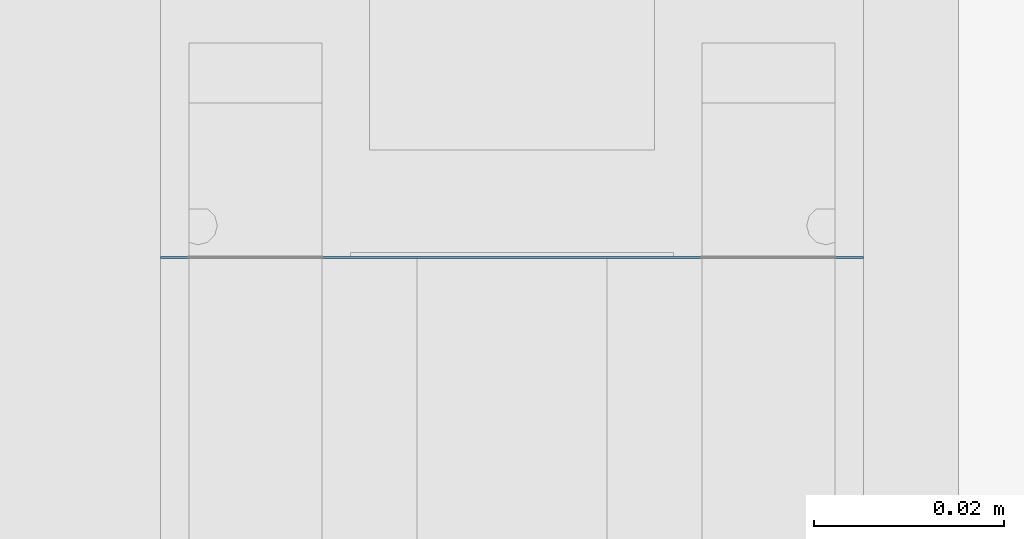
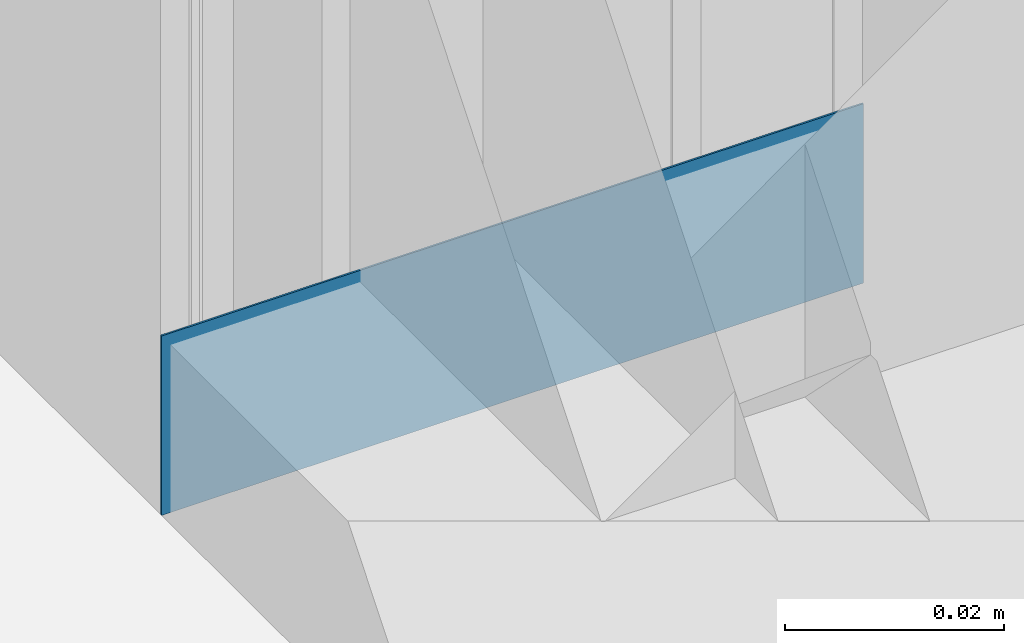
# One storey, part 7 of 65: 1 member, 1 element without a shape of its own.
"""IFC2X3 building model written with IfcOpenShell, lengths in millimetres."""

from ifc_helpers import new_model, entity, si_unit, converted_unit, derived_unit, money_unit, direction, frame, origin_with_axes, place, context, subcontext, project, spatial, polyline, outline, extrude, material, type_object, element, aggregate, save


model = new_model("IFC2X3")

# Units and contexts
model_context = context("Model", 3, precision=0.01, world=origin_with_axes(), true_north=direction((0.0, 1.0)))
body_context = subcontext(model_context, "Body", "Model", "MODEL_VIEW")
ifc_project = project(units=[si_unit("LENGTHUNIT", "METRE", prefix="MILLI"), si_unit("AREAUNIT", "SQUARE_METRE"), si_unit("VOLUMEUNIT", "CUBIC_METRE"), converted_unit("PLANEANGLEUNIT", "DEGREE", entity("IfcPlaneAngleMeasure", 0.0174532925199), si_unit("PLANEANGLEUNIT", "RADIAN"), dimensions=[0, 0, 0, 0, 0, 0, 0]), si_unit("SOLIDANGLEUNIT", "STERADIAN"), money_unit("EUR"), converted_unit("TIMEUNIT", "Year", entity("IfcTimeMeasure", 31556926.0), si_unit("TIMEUNIT", "SECOND"), dimensions=[0, 0, 1, 0, 0, 0, 0]), si_unit("MASSUNIT", "GRAM", prefix="KILO"), si_unit("THERMODYNAMICTEMPERATUREUNIT", "DEGREE_CELSIUS"), si_unit("LUMINOUSINTENSITYUNIT", "LUMEN"), si_unit("ENERGYUNIT", "JOULE", prefix="MEGA"), derived_unit("THERMALCONDUCTANCEUNIT", [(si_unit("POWERUNIT", "WATT"), 1), (si_unit("LENGTHUNIT", "METRE"), -1), (si_unit("THERMODYNAMICTEMPERATUREUNIT", "KELVIN"), -1)]), derived_unit("SPECIFICHEATCAPACITYUNIT", [(si_unit("ENERGYUNIT", "JOULE"), 1), (si_unit("MASSUNIT", "GRAM", prefix="KILO"), -1), (si_unit("THERMODYNAMICTEMPERATUREUNIT", "KELVIN"), -1)]), derived_unit("MASSDENSITYUNIT", [(si_unit("MASSUNIT", "GRAM", prefix="KILO"), 1), (si_unit("VOLUMEUNIT", "CUBIC_METRE"), -1)])], contexts=[model_context])

# Site, building, storey
site_placement = place(None, origin_with_axes())
site = spatial("IfcSite", under=ifc_project, at=site_placement, Name="Puškini 31, Narva", CompositionType="ELEMENT")
building_placement = place(site_placement, origin_with_axes())
building = spatial("IfcBuilding", under=site, at=building_placement, Name="Narva Riigigümnaasium", CompositionType="ELEMENT")
storey_placement = place(building_placement, frame((0.0, 0.0, -1320.0), z_axis=(0.0, 0.0, 1.0), x_axis=(1.0, 0.0, 0.0)))
storey = spatial("IfcBuildingStorey", under=building, at=storey_placement, Name="1.korrus -1.32", CompositionType="ELEMENT", Elevation=-1320.0)

# Curtain wall, member
curtain_wall_type = type_object("IfcCurtainWallType", Name="Curtain Wall Type", PredefinedType="NOTDEFINED")
curtain_wall_placement = place(storey_placement, frame((30362.9999988, 164066.428557, -5.96047033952e-06), z_axis=(0.0, 0.0, 1.0), x_axis=(1.0, 0.0, 0.0)))
curtain_wall = element("IfcCurtainWall", 1, at=curtain_wall_placement, inside=storey, type_object=curtain_wall_type, Name="G-SKLF-04")
ifc_material = material(Name="ET-04_Alumiinium")
member_type = type_object("IfcMemberType", Name="20 x 74", PredefinedType="MULLION")
member_placement = place(curtain_wall_placement, frame((0.0, 2903.37144197, 0.0), z_axis=(0.0, 1.0, 0.0), x_axis=(0.0, 0.0, 1.0)))
member = element("IfcMember", 2, at=member_placement, type_object=member_type, material=ifc_material, Name="G-SKLF-32-raam", ObjectType="MULLION", context=body_context, shape_type="SweptSolid", body=[
    extrude(outline(polyline([(-37.0, -20.0), (37.0, -20.0), (37.0, 0.0), (-37.0, 0.0), (-37.0, -20.0)])), frame((0.0, 0.0, 0.0), z_axis=(0.0, 0.0, 1.0), x_axis=(0.0, 1.0, 0.0)), (0.0, 0.0, 1.0), 0.19994723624),
])
aggregate(curtain_wall, [member])

save(model, "model.ifc")
